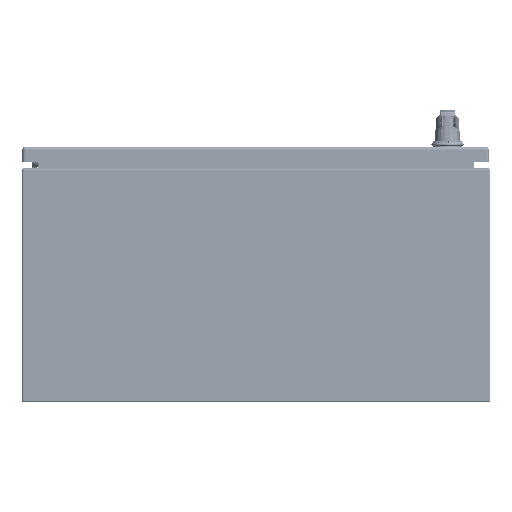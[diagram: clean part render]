
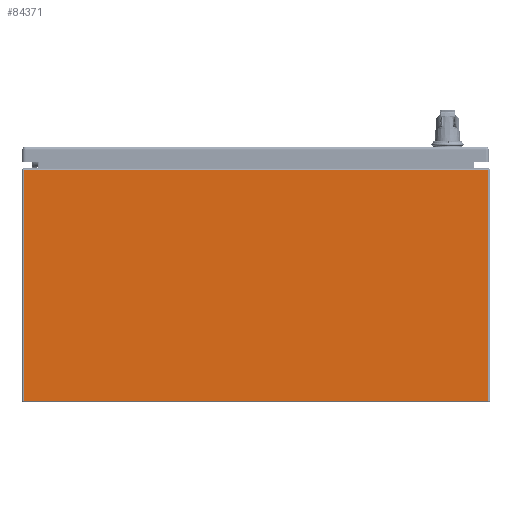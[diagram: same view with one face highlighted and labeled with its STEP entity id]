
A CAD part, front view. The second image highlights one B-rep face of the part: STEP entity #84371.
In plain terms, the highlighted planar face has unit normal (0, -1, 0).
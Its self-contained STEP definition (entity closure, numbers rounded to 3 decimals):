
#7660=LINE('',#119781,#12964);
#7667=LINE('',#119796,#12971);
#7669=LINE('',#119803,#12973);
#7671=LINE('',#119812,#12975);
#12964=VECTOR('',#98656,0.394);
#12971=VECTOR('',#98669,0.394);
#12973=VECTOR('',#98677,0.394);
#12975=VECTOR('',#98689,0.394);
#19695=FACE_OUTER_BOUND('',#24922,.T.);
#24922=EDGE_LOOP('',(#56356,#56357,#56358,#56359));
#34259=VERTEX_POINT('',#119751);
#34266=VERTEX_POINT('',#119777);
#34271=VERTEX_POINT('',#119795);
#34273=VERTEX_POINT('',#119801);
#42801=EDGE_CURVE('',#34259,#34266,#7660,.T.);
#42808=EDGE_CURVE('',#34266,#34271,#7667,.T.);
#42812=EDGE_CURVE('',#34273,#34259,#7669,.T.);
#42817=EDGE_CURVE('',#34273,#34271,#7671,.T.);
#56356=ORIENTED_EDGE('',*,*,#42801,.F.);
#56357=ORIENTED_EDGE('',*,*,#42812,.F.);
#56358=ORIENTED_EDGE('',*,*,#42817,.T.);
#56359=ORIENTED_EDGE('',*,*,#42808,.F.);
#82727=PLANE('',#90612);
#84371=ADVANCED_FACE('',(#19695),#82727,.F.);
#90612=AXIS2_PLACEMENT_3D('',#119823,#98703,#98704);
#98656=DIRECTION('',(1.,0.,0.));
#98669=DIRECTION('',(0.,0.,-1.));
#98677=DIRECTION('',(0.,0.,1.));
#98689=DIRECTION('',(1.,0.,0.));
#98703=DIRECTION('center_axis',(0.,1.,0.));
#98704=DIRECTION('ref_axis',(0.,0.,1.));
#119751=CARTESIAN_POINT('',(-11.916,-21.,11.916));
#119777=CARTESIAN_POINT('',(11.916,-21.,11.916));
#119781=CARTESIAN_POINT('',(5.979,-21.,11.916));
#119795=CARTESIAN_POINT('',(11.916,-21.,0.084));
#119796=CARTESIAN_POINT('',(11.916,-21.,6.));
#119801=CARTESIAN_POINT('',(-11.916,-21.,0.084));
#119803=CARTESIAN_POINT('',(-11.916,-21.,6.));
#119812=CARTESIAN_POINT('',(-5.958,-21.,0.084));
#119823=CARTESIAN_POINT('Origin',(0.,-21.,6.));
